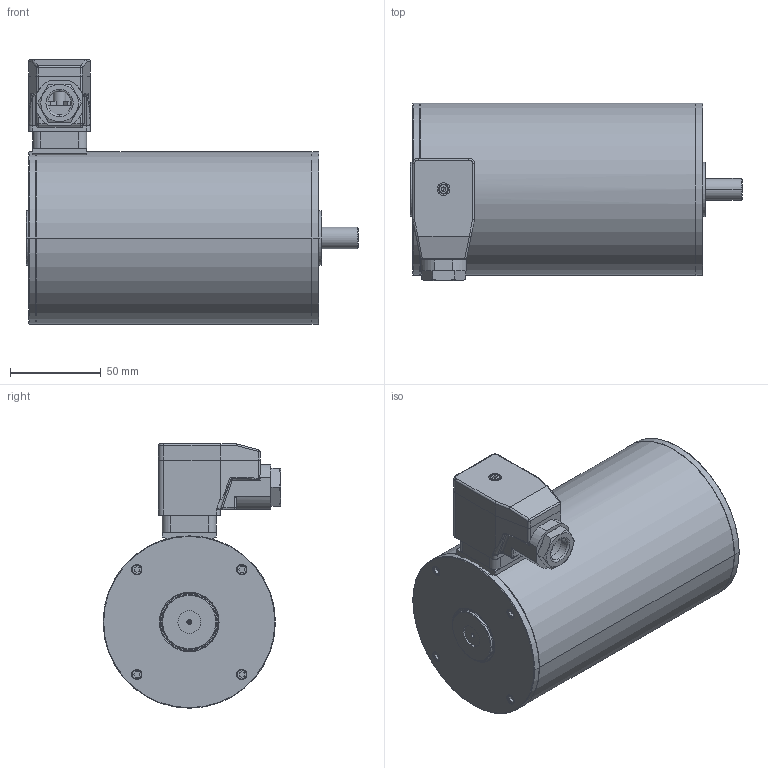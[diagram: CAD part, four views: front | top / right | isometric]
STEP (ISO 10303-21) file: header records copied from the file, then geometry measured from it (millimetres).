
FILE_DESCRIPTION (( 'STEP AP214' ), '1' );
FILE_NAME ('D9582.STEP', '2012-04-16T12:29:31', ( ' ' ), ( '' ), 'SwSTEP 2.0', 'SolidWorks 2010', '' );
FILE_SCHEMA (( 'AUTOMOTIVE_DESIGN' ));
Length unit declared in the file: millimetre
Products named in the file (9): 951120054; Hirschmann_GDM 3-21_K2-K22-Dichtung f.Dose; D9582; Hirschmann_GSAZ-300; 918082000; Hirschmann_Einsatz-GDME3020; Hirschmann_GDME3020; 935282005_ﾘ95
Assembly tree (8 placements, depth 3):
  D9582
    951120054
    D9582
    918082000
      Hirschmann_Einsatz-GDME3020
      935282005_ﾘ95
      Hirschmann_GDM 3-21_K2-K22-Dichtung f.Dose
      Hirschmann_GDME3020
      Hirschmann_GSAZ-300
Bounding box: 183 x 98 x 145.73 mm (x, y, z)
Volume: 1193069.6 mm3; surface area: 97431.8 mm2
Topology: 12 solids, 12 shells, 811 faces, 2059 edges, 1316 vertices
Faces by surface type: plane 426, cylinder 271, cone 68, torus 22, bspline 16, sphere 8
Entity records: 27600 total; most frequent: CARTESIAN_POINT 5692, DIRECTION 4197, ORIENTED_EDGE 4082, EDGE_CURVE 2041, AXIS2_PLACEMENT_3D 1445, VERTEX_POINT 1316, LINE 1307, VECTOR 1307
